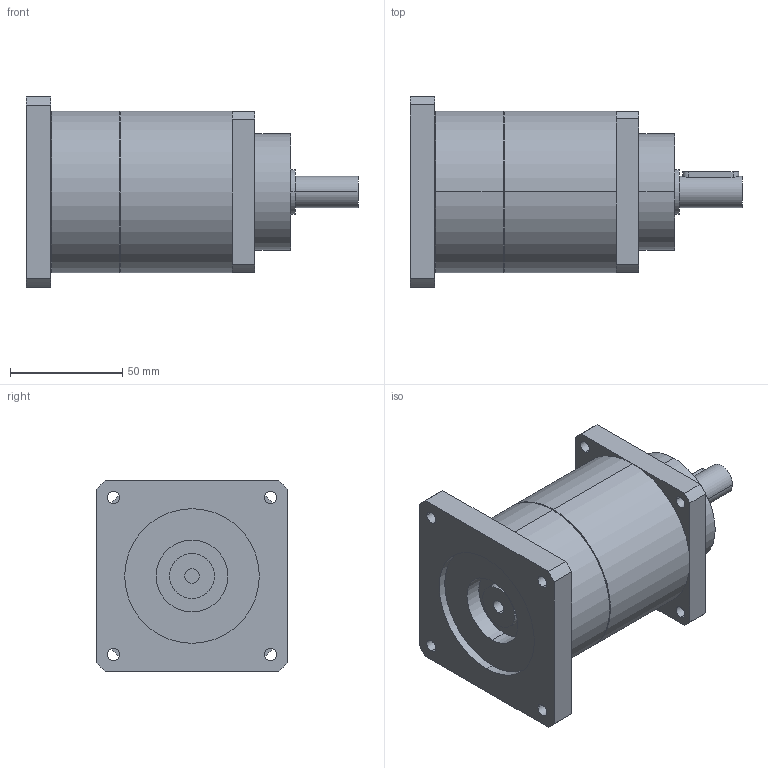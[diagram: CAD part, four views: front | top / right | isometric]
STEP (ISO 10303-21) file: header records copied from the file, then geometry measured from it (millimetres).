
FILE_DESCRIPTION(('CoCreate Modeling STEP Export'),'2;1');
FILE_NAME('GPT75_ig-9-12-16-20-25-28-35-40-50-70-100_14_B5T_6.35_P33.stp','2014-08-27T13:39:45',(''),(''),'CoCreate Modeling STEP processor for AP214 (Solid Model)','CoCreate Modeling 16.00C 25-Feb-2009 (C) Parametric Technology GmbH','');
FILE_SCHEMA(('AUTOMOTIVE_DESIGN { 1 0 10303 214 1 1 1 1 }'));
Length unit declared in the file: millimetre
Products named in the file (2): GPT75_ig-9-12-16-20-25-28-35-40-50-70-100_14_B5T_6.35_P33
Assembly tree (1 placements, depth 2):
  GPT75_ig-9-12-16-20-25-28-35-40-50-70-100_14_B5T_6.35_P33
    GPT75_ig-9-12-16-20-25-28-35-40-50-70-100_14_B5T_6.35_P33
Bounding box: 148 x 85 x 85 mm (x, y, z)
Volume: 481612.5 mm3; surface area: 49285.1 mm2
Topology: 1 solids, 1 shells, 77 faces, 194 edges, 129 vertices
Faces by surface type: cylinder 46, plane 27, cone 4
Entity records: 2484 total; most frequent: CARTESIAN_POINT 719, ORIENTED_EDGE 388, DIRECTION 320, EDGE_CURVE 194, VERTEX_POINT 129, AXIS2_PLACEMENT_3D 118, EDGE_LOOP 103, VECTOR 84
